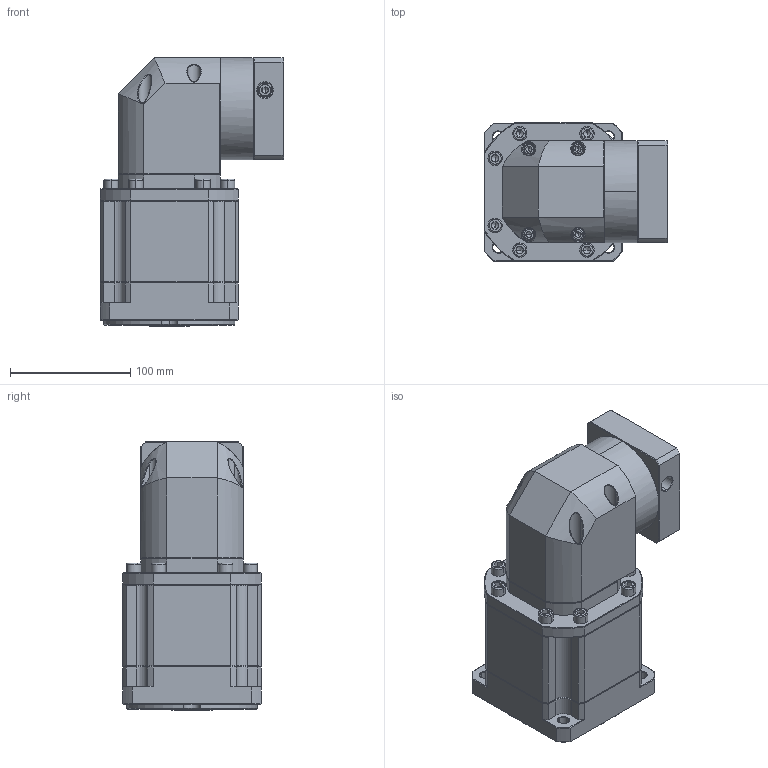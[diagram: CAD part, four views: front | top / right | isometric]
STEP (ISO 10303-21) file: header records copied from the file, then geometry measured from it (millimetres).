
FILE_DESCRIPTION (( 'STEP AP214' ), '1' );
FILE_NAME ('ZBR115A-K25-L3-P2-16-80-100-M6.step', '2023-08-26T13:37:17', ( '' ), ( '' ), 'SwSTEP 2.0', 'SolidWorks 2016', '' );
FILE_SCHEMA (( 'AUTOMOTIVE_DESIGN' ));
Length unit declared in the file: millimetre
Products named in the file (1): ZBR115A-K25-L3-P2-16-80-100-M6
Bounding box: 152.6 x 115 x 223.5 mm (x, y, z)
Volume: 2220719.9 mm3; surface area: 187390.2 mm2
Topology: 6 solids, 6 shells, 2545 faces, 6581 edges, 4147 vertices
Faces by surface type: plane 1272, cylinder 446, bspline 442, cone 371, torus 14
Entity records: 131848 total; most frequent: CARTESIAN_POINT 45411, ORIENTED_EDGE 13058, DIRECTION 10542, EDGE_CURVE 6529, LINE 4224, VECTOR 4224, VERTEX_POINT 4147, AXIS2_PLACEMENT_3D 3159
